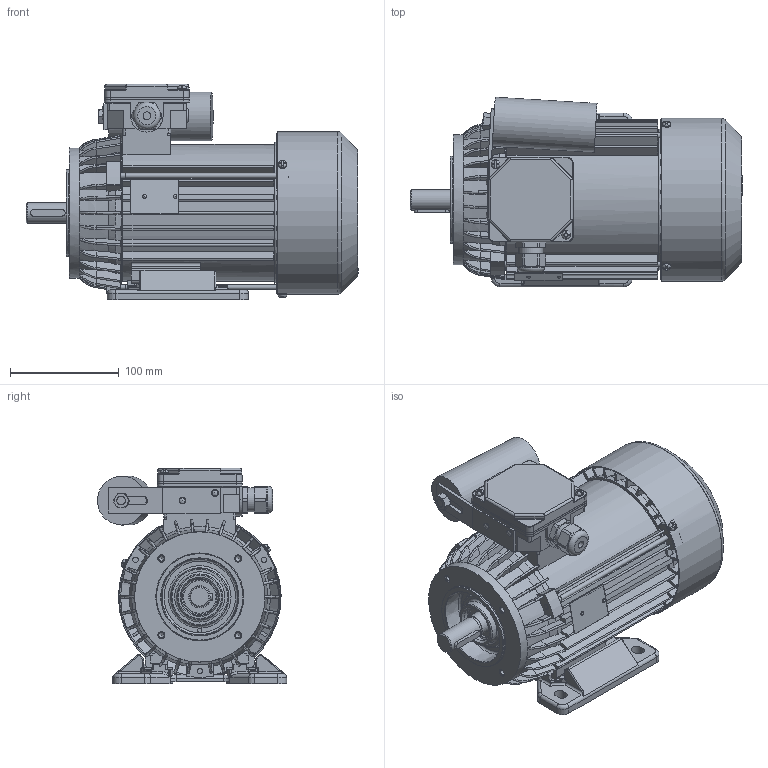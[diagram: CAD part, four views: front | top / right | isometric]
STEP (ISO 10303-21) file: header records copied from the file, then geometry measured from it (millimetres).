
FILE_DESCRIPTION(/* description */ ('Unknown'),/* implementation_level */ '2;1');
FILE_NAME(/* name */ '3SSIEL80-4B2',/* time_stamp */ '2024-06-18T11:51:43+02:00',/* author */ ('Unknown'),/* organization */ ('Unknown'),/* preprocessor_version */ 'ST-DEVELOPER v16.7',/* originating_system */ 'Solid Edge',/* authorisation */ 'Unknown');
FILE_SCHEMA (('AUTOMOTIVE_DESIGN { 1 0 10303 214 3 1 1 }','AUTOMOTIVE_DESIGN {1 0 10303 214 3 1 1}'));
Products named in the file (1): Czêœæ18
Bounding box: 305.79 x 174.3 x 198.5 mm (x, y, z)
Volume: 1222850.8 mm3; surface area: 602905 mm2
Topology: 4 solids, 4 shells, 2797 faces, 7999 edges, 5147 vertices
Faces by surface type: plane 1340, cylinder 880, bspline 292, torus 139, cone 126, sphere 20
Full cylindrical faces by diameter (mm): 2 x2, 2.4 x2, 3 x2, 3.7 x8, 4 x6, 4.3 x2, 4.5 x3, 4.6 x3, 4.8 x2, 5 x12, 5.5 x3, 6 x2, 6.5 x5, 7 x1, 8 x10, 18.598 x1, 18.998 x1, 19.298 x1, 19.498 x1, 19.898 x1, 19.948 x1, 19.998 x2, 20.4 x2, 22.3 x1, 25 x1, 25.497 x1, 25.647 x1, 25.997 x3, 26.047 x1, 28.799 x4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
Entity records: 114801 total; most frequent: CARTESIAN_POINT 27033, ORIENTED_EDGE 15078, DIRECTION 13730, EDGE_CURVE 7539, VERTEX_POINT 4989, AXIS2_PLACEMENT_3D 4982, LINE 3766, VECTOR 3766
